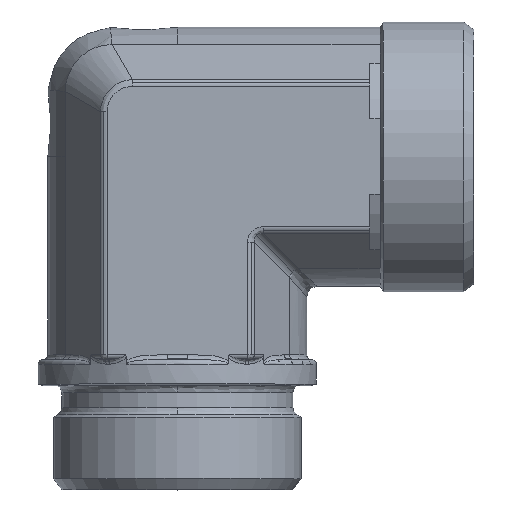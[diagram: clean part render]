
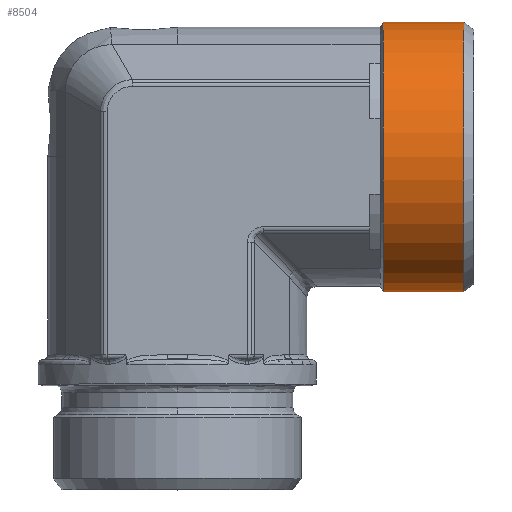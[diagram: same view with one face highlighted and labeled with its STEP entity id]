
A CAD part, top view. The second image highlights one B-rep face of the part: STEP entity #8504.
In plain terms, the highlighted cylindrical face has radius 25.91 mm (diameter 51.82 mm), a partial arc.
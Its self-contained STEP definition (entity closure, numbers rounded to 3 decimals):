
#517=CARTESIAN_POINT('',(21.41,0.,55.063));
#518=VERTEX_POINT('',#517);
#534=CARTESIAN_POINT('',(-30.41,0.,55.063));
#535=VERTEX_POINT('',#534);
#542=CARTESIAN_POINT('',(-4.5,0.,55.063));
#543=DIRECTION('',(0.0,0.0,1.0));
#544=DIRECTION('',(1.0,0.0,0.0));
#545=AXIS2_PLACEMENT_3D('',#542,#543,#544);
#546=CIRCLE('',#545,25.91);
#547=EDGE_CURVE('',#535,#518,#546,.T.);
#557=CARTESIAN_POINT('',(21.41,0.,39.598));
#558=VERTEX_POINT('',#557);
#591=CARTESIAN_POINT('',(-30.41,0.,39.598));
#592=VERTEX_POINT('',#591);
#656=CARTESIAN_POINT('',(21.41,0.,39.598));
#657=DIRECTION('',(0.0,0.0,1.0));
#658=VECTOR('',#657,15.465);
#659=LINE('',#656,#658);
#660=EDGE_CURVE('',#558,#518,#659,.T.);
#663=CARTESIAN_POINT('',(-30.41,0.,55.063));
#664=DIRECTION('',(0.0,0.0,-1.0));
#665=VECTOR('',#664,15.465);
#666=LINE('',#663,#665);
#667=EDGE_CURVE('',#535,#592,#666,.T.);
#8487=CARTESIAN_POINT('',(-4.5,0.,59.));
#8488=DIRECTION('',(0.,0.,-1.0));
#8489=DIRECTION('',(1.0,0.0,0.0));
#8490=AXIS2_PLACEMENT_3D('',#8487,#8488,#8489);
#8491=CYLINDRICAL_SURFACE('',#8490,25.91);
#8492=ORIENTED_EDGE('',*,*,#660,.T.);
#8493=ORIENTED_EDGE('',*,*,#547,.F.);
#8494=ORIENTED_EDGE('',*,*,#667,.T.);
#8495=CARTESIAN_POINT('',(-4.5,0.,39.598));
#8496=DIRECTION('',(0.0,0.0,-1.0));
#8497=DIRECTION('',(1.0,0.0,0.0));
#8498=AXIS2_PLACEMENT_3D('',#8495,#8496,#8497);
#8499=CIRCLE('',#8498,25.91);
#8500=EDGE_CURVE('',#558,#592,#8499,.T.);
#8501=ORIENTED_EDGE('',*,*,#8500,.F.);
#8502=EDGE_LOOP('',(#8492,#8493,#8494,#8501));
#8503=FACE_OUTER_BOUND('',#8502,.T.);
#8504=ADVANCED_FACE('',(#8503),#8491,.T.);
